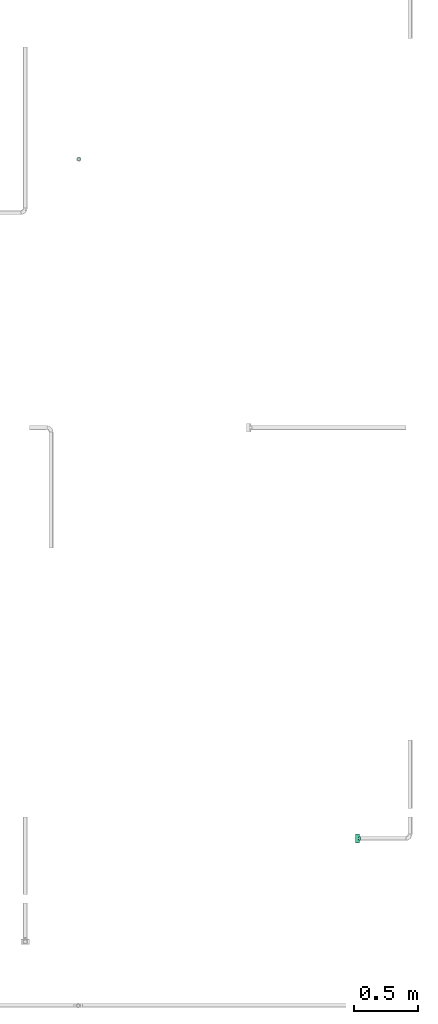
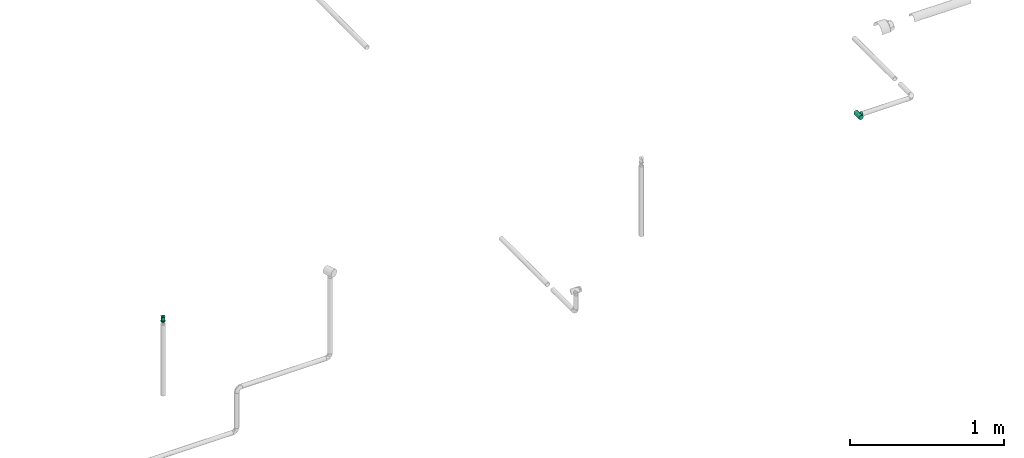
# One storey, part 36 of 63: 1 flow fitting, 1 flow terminal.
"""IFC2X3 building model written with IfcOpenShell, lengths in millimetres."""

from ifc_helpers import new_model, entity, si_unit, converted_unit, derived_unit, direction, frame, origin_with_axes, place, context, subcontext, project, spatial, open_shell, surface_model, source, transform, mapped, type_object, element, save


model = new_model("IFC2X3")

# Units and contexts
model_context = context("Model", 3, precision=0.01, world=frame((0.0, 4.29681676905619e-09, 0.0)), true_north=direction((4.01073788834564e-13, 1.0)))
plan_context = context("Plan", 3, precision=0.01, world=frame((0.0, 4.29681676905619e-09, 0.0)), true_north=direction((4.01073788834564e-13, 1.0)))
body_context = subcontext(model_context, "Body", "Model", "MODEL_VIEW")
ifc_project = project(units=[converted_unit("PLANEANGLEUNIT", "DEGREE", entity("IfcPositiveLengthMeasure", 0.0174532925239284), si_unit("PLANEANGLEUNIT", "RADIAN"), dimensions=[0, 0, 0, 0, 0, 0, 0]), si_unit("AREAUNIT", "SQUARE_METRE"), si_unit("LENGTHUNIT", "METRE", prefix="MILLI"), si_unit("MASSUNIT", "GRAM", prefix="KILO"), si_unit("POWERUNIT", "WATT"), si_unit("PRESSUREUNIT", "PASCAL", prefix="KILO"), si_unit("FORCEUNIT", "NEWTON", prefix="KILO"), si_unit("ELECTRICVOLTAGEUNIT", "VOLT"), si_unit("ELECTRICCURRENTUNIT", "AMPERE"), si_unit("THERMODYNAMICTEMPERATUREUNIT", "DEGREE_CELSIUS"), si_unit("TIMEUNIT", "SECOND"), si_unit("VOLUMEUNIT", "CUBIC_METRE"), derived_unit("LINEARVELOCITYUNIT", [(si_unit("LENGTHUNIT", "METRE"), 1), (si_unit("TIMEUNIT", "SECOND"), -1)]), derived_unit("VOLUMETRICFLOWRATEUNIT", [(si_unit("VOLUMEUNIT", "CUBIC_METRE"), 1), (si_unit("TIMEUNIT", "SECOND"), -1)]), derived_unit("THERMALTRANSMITTANCEUNIT", [(si_unit("POWERUNIT", "WATT"), 1), (si_unit("THERMODYNAMICTEMPERATUREUNIT", "KELVIN"), -1), (si_unit("AREAUNIT", "SQUARE_METRE"), -1)]), derived_unit("SOUNDPRESSUREUNIT", [(si_unit("PRESSUREUNIT", "PASCAL"), 1)])], contexts=[model_context, plan_context])

# Site, building, storey
site_placement = place(None, frame((0.0, -4.29681676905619e-09, 0.0), z_axis=(0.0, 0.0, 1.0), x_axis=(1.0, 0.0, 0.0)))
site = spatial("IfcSite", under=ifc_project, at=site_placement, CompositionType="ELEMENT")
building_placement = place(site_placement, frame((0.0, 4.29681676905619e-09, 0.0), z_axis=(0.0, 0.0, 1.0), x_axis=(1.0, 0.0, 0.0)))
building = spatial("IfcBuilding", under=site, at=building_placement, Name="mc-building", CompositionType="ELEMENT")
storey_placement = place(building_placement, frame((0.0, 0.0, 207370.0), z_axis=(0.0, 0.0, 1.0), x_axis=(1.0, 0.0, 0.0)))
storey = spatial("IfcBuildingStorey", under=building, at=storey_placement, Name="Nivå E", CompositionType="ELEMENT", Elevation=207370.0)

# Flow fitting
pipe_fitting_type = type_object("IfcPipeFittingType", Name="magi_pipe_fe_tee_centric_90_NOR", PredefinedType="JUNCTION")
shared_shape_1 = source(origin_with_axes(), body_context, "Body", "SurfaceModel", [
    surface_model("IfcShellBasedSurfaceModel", [(-33.8, 4.37404, -16.32415), (-33.8, 0.0, -16.9), (-33.8, 16.32415, -4.37404), (-33.8, 8.45, -14.63583), (-33.8, 11.9501, -11.9501), (-33.8, 14.63583, -8.45), (-33.8, -16.9, 0.0), (-33.8, -11.9501, -11.9501), (-33.8, -14.63583, -8.45), (-33.8, -8.45, -14.63583), (-33.8, -4.37404, -16.32415), (-33.8, -16.32415, -4.37404), (-33.8, 14.63583, 8.45), (-33.8, 16.32415, 4.37404), (-33.8, -8.45, 14.63583), (-33.8, 8.45, 14.63583), (-33.8, 11.9501, 11.9501), (-33.8, 4.37404, 16.32415), (-33.8, 0.0, 16.9), (-33.8, -11.9501, 11.9501), (-33.8, -14.63583, 8.45), (-33.8, -16.32415, 4.37404), (-33.8, -4.37404, 16.32415), (-33.8, 16.9, 0.0), (33.8, 4.37404, -16.32415), (33.8, -16.9, 0.0), (33.8, 0.0, -16.9), (33.8, 14.63583, -8.45), (33.8, 8.45, -14.63583), (33.8, 16.32415, -4.37404), (33.8, 11.9501, -11.9501), (33.8, -16.32415, 4.37404), (33.8, -8.45, -14.63583), (33.8, -4.37404, -16.32415), (33.8, -11.9501, -11.9501), (33.8, -14.63583, -8.45), (33.8, -16.32415, -4.37404), (33.8, 16.32415, 4.37404), (33.8, 8.45, 14.63583), (33.8, 14.63583, 8.45), (33.8, 11.9501, 11.9501), (33.8, -8.45, 14.63583), (33.8, 4.37404, 16.32415), (33.8, -14.63583, 8.45), (33.8, -11.9501, 11.9501), (33.8, 0.0, 16.9), (33.8, -4.37404, 16.32415), (33.8, 16.9, 0.0), (16.28698, -16.28698, 4.51047), (16.9, -16.9, 0.0), (14.62704, -14.62704, 8.4652), (9.47213, -9.47213, 13.99602), (12.26343, -12.26343, 11.62834), (-16.9, -16.9, 0.0), (-16.28698, -16.28698, 4.51047), (-14.62704, -14.62704, 8.4652), (-12.26343, -12.26343, 11.62834), (-9.47213, -9.47213, 13.99602), (-6.42894, -6.42894, 15.62942), (6.42894, -6.42894, 15.62942), (3.24522, -3.24522, 16.58549), (0.0, 0.0, 16.9), (-3.24522, -3.24522, 16.58549), (3.24522, -3.24522, -16.58549), (0.0, 0.0, -16.9), (-3.24522, -3.24522, -16.58549), (-6.42894, -6.42894, -15.62942), (6.42894, -6.42894, -15.62942), (9.47213, -9.47213, -13.99602), (12.26343, -12.26343, -11.62834), (14.62704, -14.62704, -8.4652), (16.28698, -16.28698, -4.51047), (-9.47213, -9.47213, -13.99602), (-12.26343, -12.26343, -11.62834), (-16.28698, -16.28698, -4.51047), (-14.62704, -14.62704, -8.4652), (4.37404, -25.35, -16.32415), (-16.9, -25.35, 0.0), (0.0, -25.35, -16.9), (14.63583, -25.35, -8.45), (8.45, -25.35, -14.63583), (16.32415, -25.35, -4.37404), (11.9501, -25.35, -11.9501), (-11.9501, -25.35, -11.9501), (-8.45, -25.35, -14.63583), (-4.37404, -25.35, -16.32415), (-14.63583, -25.35, -8.45), (-16.32415, -25.35, -4.37404), (16.9, -25.35, 0.0), (8.45, -25.35, 14.63583), (16.32415, -25.35, 4.37404), (14.63583, -25.35, 8.45), (-8.45, -25.35, 14.63583), (11.9501, -25.35, 11.9501), (4.37404, -25.35, 16.32415), (-16.32415, -25.35, 4.37404), (-11.9501, -25.35, 11.9501), (-14.63583, -25.35, 8.45), (0.0, -25.35, 16.9), (-4.37404, -25.35, 16.32415)], [open_shell([[[0, 1, 2]], [[3, 0, 4]], [[0, 2, 5]], [[4, 0, 5]], [[6, 2, 1]], [[7, 8, 9]], [[1, 10, 9]], [[11, 6, 8]], [[1, 9, 8]], [[1, 8, 6]], [[6, 12, 2]], [[12, 13, 2]], [[14, 12, 6]], [[12, 14, 15]], [[16, 12, 15]], [[17, 15, 18]], [[19, 14, 20]], [[21, 20, 14]], [[22, 18, 14]], [[14, 6, 21]], [[14, 18, 15]], [[23, 2, 13]], [[24, 25, 26]], [[27, 24, 28]], [[27, 29, 24]], [[27, 28, 30]], [[31, 25, 24]], [[26, 32, 33]], [[26, 34, 32]], [[35, 25, 36]], [[35, 34, 26]], [[25, 35, 26]], [[24, 29, 31]], [[29, 37, 38]], [[38, 37, 39]], [[38, 31, 29]], [[38, 39, 40]], [[41, 38, 42]], [[43, 41, 44]], [[41, 43, 31]], [[41, 45, 46]], [[41, 31, 38]], [[42, 45, 41]], [[29, 47, 37]], [[31, 43, 48]], [[25, 31, 49]], [[49, 31, 48]], [[43, 50, 48]], [[44, 41, 51]], [[50, 43, 52]], [[51, 52, 44]], [[52, 43, 44]], [[53, 54, 21]], [[53, 21, 6]], [[21, 54, 20]], [[54, 55, 20]], [[56, 57, 19]], [[19, 20, 56]], [[19, 57, 14]], [[56, 20, 55]], [[14, 57, 58]], [[51, 41, 59]], [[60, 45, 61]], [[59, 46, 60]], [[46, 59, 41]], [[60, 46, 45]], [[61, 45, 42]], [[39, 37, 13]], [[16, 38, 40]], [[12, 40, 39]], [[42, 38, 15]], [[23, 37, 47]], [[62, 61, 18]], [[62, 22, 58]], [[22, 62, 18]], [[58, 22, 14]], [[61, 17, 18]], [[42, 17, 61]], [[15, 17, 42]], [[15, 38, 16]], [[12, 16, 40]], [[13, 12, 39]], [[37, 23, 13]], [[5, 27, 30]], [[23, 47, 29]], [[30, 28, 3]], [[27, 2, 29]], [[26, 33, 63]], [[26, 64, 24]], [[64, 26, 63]], [[28, 24, 0]], [[64, 0, 24]], [[4, 30, 3]], [[2, 27, 5]], [[5, 30, 4]], [[2, 23, 29]], [[65, 66, 10]], [[1, 0, 64]], [[1, 65, 10]], [[66, 9, 10]], [[0, 3, 28]], [[1, 64, 65]], [[63, 33, 67]], [[32, 34, 68]], [[69, 68, 34]], [[35, 70, 69]], [[69, 34, 35]], [[32, 68, 67]], [[36, 25, 49]], [[36, 71, 35]], [[71, 36, 49]], [[35, 71, 70]], [[72, 9, 66]], [[72, 7, 9]], [[7, 72, 73]], [[7, 73, 8]], [[74, 53, 11]], [[75, 74, 8]], [[74, 11, 8]], [[11, 53, 6]], [[75, 8, 73]], [[32, 67, 33]], [[76, 77, 78]], [[79, 76, 80]], [[79, 81, 76]], [[79, 80, 82]], [[77, 76, 81]], [[78, 83, 84]], [[84, 85, 78]], [[86, 77, 87]], [[83, 78, 86]], [[77, 86, 78]], [[81, 88, 77]], [[89, 88, 90]], [[89, 90, 91]], [[92, 77, 89]], [[89, 91, 93]], [[92, 89, 94]], [[95, 96, 97]], [[96, 95, 92]], [[92, 98, 99]], [[95, 77, 92]], [[94, 98, 92]], [[89, 77, 88]], [[77, 95, 53]], [[54, 53, 95]], [[97, 96, 56]], [[96, 92, 57]], [[95, 97, 54]], [[58, 92, 99]], [[55, 54, 97]], [[56, 55, 97]], [[58, 57, 92]], [[98, 61, 62]], [[58, 99, 62]], [[56, 96, 57]], [[62, 99, 98]], [[94, 60, 98]], [[89, 59, 94]], [[91, 90, 48]], [[52, 93, 91]], [[93, 51, 89]], [[49, 90, 88]], [[59, 60, 94]], [[51, 59, 89]], [[49, 48, 90]], [[50, 52, 91]], [[48, 50, 91]], [[51, 93, 52]], [[98, 60, 61]], [[88, 81, 49]], [[71, 49, 81]], [[79, 82, 69]], [[82, 80, 68]], [[81, 79, 71]], [[67, 80, 76]], [[70, 71, 79]], [[69, 70, 79]], [[67, 68, 80]], [[78, 64, 63]], [[67, 76, 63]], [[69, 82, 68]], [[63, 76, 78]], [[85, 65, 78]], [[84, 66, 85]], [[86, 87, 74]], [[86, 73, 83]], [[72, 84, 83]], [[53, 87, 77]], [[66, 65, 85]], [[72, 66, 84]], [[53, 74, 87]], [[75, 73, 86]], [[74, 75, 86]], [[72, 83, 73]], [[78, 65, 64]]])]),
])
flow_fitting_placement = place(storey_placement, frame((724589.39723, 435998.03458, 7130.0), z_axis=(0.0, 0.0, -1.0), x_axis=(0.0, -1.0, 0.0)))
element("IfcFlowFitting", 1, at=flow_fitting_placement, inside=storey, type_object=pipe_fitting_type, Name="magi_pipe_fe_tee_centric_90_NOR", context=body_context, shape_type="MappedRepresentation", body=[
    mapped(shared_shape_1, transform((0.0, 0.0, 0.0), scale=1.0)),
])

# Flow terminal
fire_suppression_terminal_type = type_object("IfcFireSuppressionTerminalType", Name="68DGR-STD-STÅENDE", PredefinedType="NOTDEFINED")
shared_shape_2 = source(origin_with_axes(), body_context, "Body", "SurfaceModel", [
    surface_model("IfcShellBasedSurfaceModel", [(3.36465, -12.55704, 51.0), (6.5, -11.25833, 51.0), (9.19239, -9.19239, 51.0), (12.55704, -3.36465, 51.0), (-11.25833, -6.5, 51.0), (11.25833, -6.5, 51.0), (-13.0, 0.0, 51.0), (0.0, -13.0, 51.0), (-6.5, -11.25833, 51.0), (-3.36465, -12.55704, 51.0), (-9.19239, -9.19239, 51.0), (-12.55704, -3.36465, 51.0), (13.0, 0.0, 51.0), (12.55704, 3.36465, 51.0), (11.25833, 6.5, 51.0), (9.19239, 9.19239, 51.0), (6.5, 11.25833, 51.0), (3.36465, 12.55704, 51.0), (0.0, 13.0, 51.0), (-3.36465, 12.55704, 51.0), (-12.55704, 3.36465, 51.0), (-9.19239, 9.19239, 51.0), (-11.25833, 6.5, 51.0), (-6.5, 11.25833, 51.0), (0.0, 13.0, 21.14766), (3.36465, 12.55704, 21.14766), (6.5, 11.25833, 21.14766), (-3.36465, 12.55704, 21.14766), (9.19239, 9.19239, 21.14766), (11.25833, 6.5, 21.14766), (12.55704, 3.36465, 21.14766), (-12.55704, 3.36465, 21.14766), (-11.25833, -6.5, 21.14766), (-9.19239, 9.19239, 21.14766), (-6.5, 11.25833, 21.14766), (-11.25833, 6.5, 21.14766), (-13.0, 0.0, 21.14766), (12.55704, -3.36465, 21.14766), (9.19239, -9.19239, 21.14766), (11.25833, -6.5, 21.14766), (6.5, -11.25833, 21.14766), (3.36465, -12.55704, 21.14766), (-6.5, -11.25833, 21.14766), (-9.19239, -9.19239, 21.14766), (-12.55704, -3.36465, 21.14766), (0.0, -13.0, 21.14766), (-3.36465, -12.55704, 21.14766), (13.0, 0.0, 21.14766), (7.24444, -1.94114, 0.1), (1.94114, -7.24444, 0.1), (3.75, -6.49519, 0.1), (5.3033, -5.3033, 0.1), (-5.3033, -5.3033, 0.1), (6.49519, -3.75, 0.1), (5.3033, 5.3033, 0.1), (0.0, -7.5, 0.1), (-3.75, -6.49519, 0.1), (-1.94114, -7.24444, 0.1), (-7.24444, -1.94114, 0.1), (-6.49519, -3.75, 0.1), (-7.24444, 1.94114, 0.1), (7.5, 0.0, 0.1), (6.49519, 3.75, 0.1), (-6.49519, 3.75, 0.1), (1.94114, 7.24444, 0.1), (0.0, 7.5, 0.1), (3.75, 6.49519, 0.1), (-7.5, 0.0, 0.1), (-5.3033, 5.3033, 0.1), (-1.94114, 7.24444, 0.1), (-3.75, 6.49519, 0.1), (7.24444, 1.94114, 0.1), (1.94114, 7.24444, -0.1), (-6.49519, 3.75, -0.1), (0.0, 7.5, -0.1), (5.3033, 5.3033, -0.1), (3.75, 6.49519, -0.1), (6.49519, 3.75, -0.1), (7.24444, 1.94114, -0.1), (-1.94114, 7.24444, -0.1), (-5.3033, 5.3033, -0.1), (-3.75, 6.49519, -0.1), (-7.24444, 1.94114, -0.1), (-7.24444, -1.94114, -0.1), (-7.5, 0.0, -0.1), (7.5, 0.0, -0.1), (7.24444, -1.94114, -0.1), (-5.3033, -5.3033, -0.1), (1.94114, -7.24444, -0.1), (6.49519, -3.75, -0.1), (5.3033, -5.3033, -0.1), (3.75, -6.49519, -0.1), (-6.49519, -3.75, -0.1), (-3.75, -6.49519, -0.1), (0.0, -7.5, -0.1), (-1.94114, -7.24444, -0.1), (0.0, -2.5, 51.0), (-2.5, 0.0, 51.0), (0.0, 2.5, 51.0), (2.5, 0.0, 51.0), (0.0, -16.0, 53.0), (11.31371, -11.31371, 53.0), (-11.31371, -11.31371, 53.0), (-16.0, 0.0, 53.0), (16.0, 0.0, 53.0), (11.31371, 11.31371, 53.0), (0.0, 16.0, 53.0), (-11.31371, 11.31371, 53.0), (1.25, -2.16506, 57.0), (0.0, -2.5, 57.0), (0.64705, -2.41481, 57.0), (2.41481, -0.64705, 57.0), (1.76777, -1.76777, 57.0), (-2.41481, -0.64705, 57.0), (-2.5, 0.0, 57.0), (2.16506, -1.25, 57.0), (-1.25, -2.16506, 57.0), (-0.64705, -2.41481, 57.0), (-1.76777, -1.76777, 57.0), (-2.16506, -1.25, 57.0), (2.5, 0.0, 57.0), (2.41481, 0.64705, 57.0), (2.16506, 1.25, 57.0), (1.76777, 1.76777, 57.0), (0.64705, 2.41481, 57.0), (1.25, 2.16506, 57.0), (-1.76777, 1.76777, 57.0), (0.0, 2.5, 57.0), (-2.16506, 1.25, 57.0), (-2.41481, 0.64705, 57.0), (-0.64705, 2.41481, 57.0), (-1.25, 2.16506, 57.0), (1.25, 2.16506, 51.0), (1.76777, 1.76777, 51.0), (1.15, 1.99186, 51.0), (0.59528, 2.22163, 51.0), (0.64705, 2.41481, 51.0), (0.0, 2.3, 51.0), (1.62635, 1.62635, 51.0), (2.41481, 0.64705, 51.0), (2.3, 0.0, 51.0), (2.22163, 0.59528, 51.0), (2.16506, 1.25, 51.0), (1.99186, 1.15, 51.0), (-0.59528, 2.22163, 51.0), (-0.64705, 2.41481, 51.0), (-1.15, 1.99186, 51.0), (-1.76777, 1.76777, 51.0), (-1.25, 2.16506, 51.0), (-1.62635, 1.62635, 51.0), (-1.99186, 1.15, 51.0), (-2.16506, 1.25, 51.0), (-2.22163, 0.59528, 51.0), (-2.41481, 0.64705, 51.0), (-2.3, 0.0, 51.0), (2.41481, -0.64705, 51.0), (2.22163, -0.59528, 51.0), (1.99186, -1.15, 51.0), (2.16506, -1.25, 51.0), (1.62635, -1.62635, 51.0), (1.76777, -1.76777, 51.0), (1.25, -2.16506, 51.0), (1.15, -1.99186, 51.0), (0.59528, -2.22163, 51.0), (0.64705, -2.41481, 51.0), (0.0, -2.3, 51.0), (-2.16506, -1.25, 51.0), (-1.99186, -1.15, 51.0), (-1.76777, -1.76777, 51.0), (-1.62635, -1.62635, 51.0), (-2.41481, -0.64705, 51.0), (-2.22163, -0.59528, 51.0), (-0.59528, -2.22163, 51.0), (-0.64705, -2.41481, 51.0), (-1.15, -1.99186, 51.0), (-1.25, -2.16506, 51.0), (1.62635, -1.62635, 56.8), (1.15, -1.99186, 56.8), (0.59528, -2.22163, 56.8), (0.0, -2.3, 56.8), (2.22163, 0.59528, 56.8), (1.99186, -1.15, 56.8), (2.22163, -0.59528, 56.8), (-0.59528, -2.22163, 56.8), (-1.15, -1.99186, 56.8), (-1.62635, -1.62635, 56.8), (-1.99186, -1.15, 56.8), (-2.22163, -0.59528, 56.8), (-1.99186, 1.15, 56.8), (2.3, 0.0, 56.8), (1.62635, 1.62635, 56.8), (1.99186, 1.15, 56.8), (1.15, 1.99186, 56.8), (0.0, 2.3, 56.8), (0.59528, 2.22163, 56.8), (-2.22163, 0.59528, 56.8), (-2.3, 0.0, 56.8), (-1.15, 1.99186, 56.8), (-0.59528, 2.22163, 56.8), (-1.62635, 1.62635, 56.8), (4.1411, -15.45481, 19.0), (8.0, -13.85641, 19.0), (11.31371, -11.31371, 19.0), (-8.0, -13.85641, 19.0), (15.45481, -4.1411, 19.0), (16.0, 0.0, 19.0), (13.85641, -8.0, 19.0), (0.0, -16.0, 19.0), (-4.1411, -15.45481, 19.0), (-13.85641, -8.0, 19.0), (-11.31371, -11.31371, 19.0), (-15.45481, -4.1411, 19.0), (15.45481, 4.1411, 19.0), (13.85641, 8.0, 19.0), (11.31371, 11.31371, 19.0), (-4.1411, 15.45481, 19.0), (8.0, 13.85641, 19.0), (4.1411, 15.45481, 19.0), (0.0, 16.0, 19.0), (-13.85641, 8.0, 19.0), (-15.45481, 4.1411, 19.0), (-16.0, 0.0, 19.0), (-11.31371, 11.31371, 19.0), (-8.0, 13.85641, 19.0), (0.0, 16.0, 13.0), (4.1411, 15.45481, 13.0), (8.0, 13.85641, 13.0), (-4.1411, 15.45481, 13.0), (11.31371, 11.31371, 13.0), (13.85641, 8.0, 13.0), (15.45481, 4.1411, 13.0), (-15.45481, -4.1411, 13.0), (-11.31371, 11.31371, 13.0), (-8.0, 13.85641, 13.0), (-13.85641, 8.0, 13.0), (-15.45481, 4.1411, 13.0), (-16.0, 0.0, 13.0), (4.1411, -15.45481, 13.0), (16.0, 0.0, 13.0), (15.45481, -4.1411, 13.0), (13.85641, -8.0, 13.0), (11.31371, -11.31371, 13.0), (8.0, -13.85641, 13.0), (-8.0, -13.85641, 13.0), (-13.85641, -8.0, 13.0), (-11.31371, -11.31371, 13.0), (0.0, -16.0, 13.0), (-4.1411, -15.45481, 13.0), (7.24444, -1.94114, 13.0), (1.94114, -7.24444, 13.0), (3.75, -6.49519, 13.0), (5.3033, -5.3033, 13.0), (-5.3033, -5.3033, 13.0), (6.49519, -3.75, 13.0), (5.3033, 5.3033, 13.0), (0.0, -7.5, 13.0), (-3.75, -6.49519, 13.0), (-1.94114, -7.24444, 13.0), (-7.24444, -1.94114, 13.0), (-6.49519, -3.75, 13.0), (-7.24444, 1.94114, 13.0), (7.5, 0.0, 13.0), (6.49519, 3.75, 13.0), (-6.49519, 3.75, 13.0), (1.94114, 7.24444, 13.0), (0.0, 7.5, 13.0), (3.75, 6.49519, 13.0), (-7.5, 0.0, 13.0), (-5.3033, 5.3033, 13.0), (-1.94114, 7.24444, 13.0), (-3.75, 6.49519, 13.0), (7.24444, 1.94114, 13.0), (3.75, 6.49519, 0.0), (5.3033, 5.3033, 0.0), (3.65, 6.32199, 0.0), (1.88938, 7.05126, 0.0), (0.0, 7.3, 0.0), (1.94114, 7.24444, 0.0), (0.0, 7.5, 0.0), (5.16188, 5.16188, 0.0), (7.24444, 1.94114, 0.0), (7.3, 0.0, 0.0), (7.05126, 1.88938, 0.0), (7.5, 0.0, 0.0), (6.49519, 3.75, 0.0), (6.32199, 3.65, 0.0), (-1.88938, 7.05126, 0.0), (-1.94114, 7.24444, 0.0), (-3.65, 6.32199, 0.0), (-5.3033, 5.3033, 0.0), (-3.75, 6.49519, 0.0), (-5.16188, 5.16188, 0.0), (-6.32199, 3.65, 0.0), (-6.49519, 3.75, 0.0), (-7.05126, 1.88938, 0.0), (-7.24444, 1.94114, 0.0), (-7.3, 0.0, 0.0), (-7.5, 0.0, 0.0), (7.24444, -1.94114, 0.0), (7.05126, -1.88938, 0.0), (6.32199, -3.65, 0.0), (6.49519, -3.75, 0.0), (5.16188, -5.16188, 0.0), (5.3033, -5.3033, 0.0), (3.75, -6.49519, 0.0), (3.65, -6.32199, 0.0), (1.88938, -7.05126, 0.0), (1.94114, -7.24444, 0.0), (0.0, -7.3, 0.0), (0.0, -7.5, 0.0), (-6.49519, -3.75, 0.0), (-6.32199, -3.65, 0.0), (-5.3033, -5.3033, 0.0), (-5.16188, -5.16188, 0.0), (-7.24444, -1.94114, 0.0), (-7.05126, -1.88938, 0.0), (-1.88938, -7.05126, 0.0), (-1.94114, -7.24444, 0.0), (-3.65, -6.32199, 0.0), (-3.75, -6.49519, 0.0), (1.88938, -7.05126, 12.8), (0.0, -7.3, 12.8), (3.65, -6.32199, 12.8), (5.16188, -5.16188, 12.8), (6.32199, -3.65, 12.8), (7.05126, 1.88938, 12.8), (7.05126, -1.88938, 12.8), (-5.16188, -5.16188, 12.8), (-1.88938, -7.05126, 12.8), (-3.65, -6.32199, 12.8), (-6.32199, -3.65, 12.8), (-7.05126, -1.88938, 12.8), (0.0, 7.3, 12.8), (7.3, 0.0, 12.8), (6.32199, 3.65, 12.8), (5.16188, 5.16188, 12.8), (3.65, 6.32199, 12.8), (1.88938, 7.05126, 12.8), (-6.32199, 3.65, 12.8), (-7.05126, 1.88938, 12.8), (-7.3, 0.0, 12.8), (-3.65, 6.32199, 12.8), (-1.88938, 7.05126, 12.8), (-5.16188, 5.16188, 12.8)], [open_shell([[[0, 1, 2]], [[0, 2, 3]], [[0, 3, 4]], [[3, 2, 5]], [[6, 4, 3]], [[7, 8, 9]], [[7, 0, 8]], [[8, 4, 10]], [[0, 4, 8]], [[4, 6, 11]], [[6, 3, 12]], [[13, 14, 15]], [[6, 13, 15]], [[16, 17, 18]], [[15, 16, 19]], [[18, 19, 16]], [[20, 21, 22]], [[20, 6, 15]], [[21, 19, 23]], [[19, 21, 20]], [[15, 19, 20]], [[13, 6, 12]], [[24, 25, 26]], [[27, 24, 26]], [[28, 29, 30]], [[26, 28, 31]], [[28, 32, 31]], [[27, 33, 34]], [[33, 27, 31]], [[33, 31, 35]], [[27, 26, 31]], [[31, 32, 36]], [[32, 28, 30]], [[32, 30, 37]], [[38, 37, 39]], [[38, 40, 41]], [[38, 41, 37]], [[32, 37, 41]], [[32, 42, 43]], [[44, 36, 32]], [[42, 45, 46]], [[42, 32, 41]], [[45, 42, 41]], [[30, 47, 37]], [[4, 32, 43]], [[8, 42, 46]], [[43, 42, 10]], [[9, 46, 45]], [[36, 11, 6]], [[11, 36, 44]], [[11, 44, 4]], [[44, 32, 4]], [[43, 10, 4]], [[8, 10, 42]], [[46, 9, 8]], [[45, 7, 9]], [[0, 41, 40]], [[38, 1, 40]], [[5, 39, 37]], [[38, 39, 2]], [[3, 37, 47]], [[41, 0, 7]], [[40, 1, 0]], [[38, 2, 1]], [[39, 5, 2]], [[3, 5, 37]], [[47, 12, 3]], [[41, 7, 45]], [[30, 13, 47]], [[29, 14, 30]], [[25, 24, 17]], [[15, 29, 28]], [[30, 14, 13]], [[13, 12, 47]], [[16, 26, 17]], [[16, 15, 28]], [[26, 25, 17]], [[15, 14, 29]], [[28, 26, 16]], [[24, 18, 17]], [[19, 27, 34]], [[33, 23, 34]], [[22, 35, 31]], [[33, 35, 21]], [[20, 31, 36]], [[27, 19, 18]], [[34, 23, 19]], [[33, 21, 23]], [[35, 22, 21]], [[20, 22, 31]], [[36, 6, 20]], [[27, 18, 24]], [[48, 49, 50]], [[48, 50, 51]], [[49, 48, 52]], [[48, 51, 53]], [[54, 52, 48]], [[55, 56, 57]], [[56, 55, 52]], [[52, 58, 59]], [[52, 55, 49]], [[52, 60, 58]], [[54, 48, 61]], [[62, 54, 61]], [[54, 63, 52]], [[64, 65, 54]], [[64, 54, 66]], [[63, 54, 65]], [[63, 60, 52]], [[67, 58, 60]], [[68, 69, 70]], [[69, 68, 63]], [[69, 63, 65]], [[71, 62, 61]], [[72, 73, 74]], [[75, 72, 76]], [[75, 77, 78]], [[72, 75, 73]], [[78, 73, 75]], [[79, 80, 81]], [[80, 79, 73]], [[74, 73, 79]], [[78, 82, 73]], [[82, 83, 84]], [[82, 78, 85]], [[86, 87, 85]], [[88, 86, 89]], [[90, 91, 88]], [[90, 88, 89]], [[87, 86, 88]], [[83, 87, 92]], [[83, 85, 87]], [[93, 94, 95]], [[94, 93, 87]], [[88, 94, 87]], [[85, 83, 82]], [[83, 58, 84]], [[92, 59, 83]], [[56, 87, 93]], [[92, 87, 52]], [[57, 93, 95]], [[83, 59, 58]], [[58, 67, 84]], [[57, 56, 93]], [[52, 87, 56]], [[52, 59, 92]], [[55, 57, 95]], [[95, 94, 55]], [[88, 49, 94]], [[91, 50, 88]], [[53, 90, 89]], [[91, 90, 51]], [[48, 89, 86]], [[91, 51, 50]], [[50, 49, 88]], [[61, 48, 86]], [[53, 89, 48]], [[53, 51, 90]], [[85, 61, 86]], [[94, 49, 55]], [[78, 71, 85]], [[77, 62, 78]], [[66, 75, 76]], [[77, 75, 54]], [[64, 76, 72]], [[78, 62, 71]], [[71, 61, 85]], [[64, 66, 76]], [[54, 75, 66]], [[54, 62, 77]], [[65, 64, 72]], [[72, 74, 65]], [[79, 69, 74]], [[81, 70, 79]], [[63, 80, 73]], [[81, 80, 68]], [[60, 73, 82]], [[81, 68, 70]], [[70, 69, 79]], [[67, 60, 82]], [[63, 73, 60]], [[63, 68, 80]], [[84, 67, 82]], [[74, 69, 65]], [[96, 97, 98]], [[98, 99, 96]], [[100, 101, 102]], [[103, 102, 101]], [[101, 104, 103]], [[104, 105, 106]], [[107, 103, 106]], [[106, 103, 104]], [[99, 98, 105]], [[105, 104, 99]], [[98, 106, 105]], [[98, 107, 106]], [[107, 98, 97]], [[103, 107, 97]], [[97, 96, 102]], [[102, 103, 97]], [[96, 100, 102]], [[96, 101, 100]], [[101, 96, 99]], [[104, 101, 99]], [[108, 109, 110]], [[111, 108, 112]], [[113, 108, 114]], [[111, 112, 115]], [[108, 111, 114]], [[109, 116, 117]], [[116, 109, 118]], [[118, 113, 119]], [[118, 109, 108]], [[108, 113, 118]], [[111, 120, 114]], [[121, 122, 123]], [[114, 121, 123]], [[114, 123, 124]], [[124, 123, 125]], [[126, 124, 127]], [[124, 128, 129]], [[129, 114, 124]], [[126, 130, 131]], [[128, 124, 126]], [[130, 126, 127]], [[121, 114, 120]], [[132, 133, 134]], [[132, 134, 135]], [[136, 135, 137]], [[135, 136, 132]], [[136, 137, 98]], [[134, 133, 138]], [[139, 140, 141]], [[140, 139, 99]], [[139, 141, 142]], [[138, 142, 143]], [[142, 138, 133]], [[143, 142, 141]], [[98, 144, 145]], [[98, 137, 144]], [[145, 144, 146]], [[147, 148, 149]], [[146, 148, 145]], [[149, 148, 146]], [[150, 151, 147]], [[151, 150, 152]], [[150, 147, 149]], [[153, 152, 154]], [[152, 153, 151]], [[153, 154, 97]], [[99, 155, 156]], [[156, 155, 157]], [[157, 158, 159]], [[158, 157, 155]], [[159, 158, 160]], [[160, 161, 162]], [[162, 161, 163]], [[163, 164, 165]], [[164, 163, 161]], [[165, 164, 96]], [[162, 159, 160]], [[166, 167, 168]], [[168, 167, 169]], [[167, 166, 170]], [[97, 171, 170]], [[170, 171, 167]], [[97, 154, 171]], [[172, 96, 173]], [[172, 173, 174]], [[169, 175, 168]], [[175, 169, 174]], [[175, 174, 173]], [[165, 96, 172]], [[156, 140, 99]], [[170, 113, 97]], [[166, 119, 170]], [[116, 168, 175]], [[166, 168, 118]], [[117, 175, 173]], [[170, 119, 113]], [[113, 114, 97]], [[117, 116, 175]], [[118, 168, 116]], [[118, 119, 166]], [[109, 117, 173]], [[173, 96, 109]], [[164, 110, 96]], [[161, 108, 164]], [[115, 160, 158]], [[161, 160, 112]], [[111, 158, 155]], [[161, 112, 108]], [[108, 110, 164]], [[120, 111, 155]], [[115, 158, 111]], [[115, 112, 160]], [[99, 120, 155]], [[96, 110, 109]], [[139, 121, 99]], [[142, 122, 139]], [[125, 133, 132]], [[142, 133, 123]], [[124, 132, 136]], [[139, 122, 121]], [[121, 120, 99]], [[124, 125, 132]], [[123, 133, 125]], [[123, 122, 142]], [[127, 124, 136]], [[136, 98, 127]], [[145, 130, 98]], [[148, 131, 145]], [[128, 147, 151]], [[148, 147, 126]], [[129, 151, 153]], [[148, 126, 131]], [[131, 130, 145]], [[114, 129, 153]], [[128, 151, 129]], [[128, 126, 147]], [[97, 114, 153]], [[98, 130, 127]], [[176, 177, 178]], [[176, 178, 179]], [[180, 176, 179]], [[181, 176, 182]], [[180, 182, 176]], [[183, 184, 179]], [[185, 179, 184]], [[186, 187, 185]], [[185, 187, 188]], [[179, 185, 188]], [[189, 182, 180]], [[190, 191, 180]], [[192, 190, 180]], [[193, 194, 192]], [[180, 193, 192]], [[188, 193, 180]], [[195, 188, 196]], [[196, 188, 187]], [[197, 198, 199]], [[188, 199, 198]], [[188, 198, 193]], [[180, 179, 188]], [[154, 187, 171]], [[171, 186, 167]], [[174, 169, 184]], [[185, 169, 167]], [[172, 174, 183]], [[187, 186, 171]], [[154, 196, 187]], [[174, 184, 183]], [[184, 169, 185]], [[167, 186, 185]], [[172, 183, 179]], [[179, 165, 172]], [[165, 178, 163]], [[163, 177, 162]], [[157, 159, 181]], [[176, 159, 162]], [[156, 157, 182]], [[177, 176, 162]], [[163, 178, 177]], [[156, 182, 189]], [[182, 157, 181]], [[159, 176, 181]], [[156, 189, 140]], [[179, 178, 165]], [[140, 180, 141]], [[141, 191, 143]], [[134, 138, 192]], [[190, 138, 143]], [[135, 134, 194]], [[180, 191, 141]], [[140, 189, 180]], [[134, 192, 194]], [[192, 138, 190]], [[143, 191, 190]], [[135, 194, 193]], [[193, 137, 135]], [[137, 198, 144]], [[144, 197, 146]], [[150, 149, 188]], [[199, 149, 146]], [[152, 150, 195]], [[197, 199, 146]], [[144, 198, 197]], [[152, 195, 196]], [[195, 150, 188]], [[149, 199, 188]], [[152, 196, 154]], [[193, 198, 137]], [[200, 201, 202]], [[203, 200, 202]], [[204, 205, 202]], [[204, 202, 206]], [[203, 202, 205]], [[207, 203, 208]], [[207, 200, 203]], [[203, 209, 210]], [[209, 203, 211]], [[205, 211, 203]], [[205, 212, 211]], [[212, 213, 214]], [[215, 212, 214]], [[216, 217, 218]], [[214, 216, 215]], [[218, 215, 216]], [[211, 219, 220]], [[221, 211, 220]], [[222, 215, 223]], [[215, 222, 219]], [[219, 211, 215]], [[211, 212, 215]], [[224, 225, 226]], [[227, 224, 226]], [[228, 229, 230]], [[227, 226, 228]], [[227, 228, 231]], [[227, 232, 233]], [[232, 227, 234]], [[234, 231, 235]], [[231, 234, 227]], [[235, 231, 236]], [[228, 230, 231]], [[237, 238, 239]], [[237, 239, 240]], [[241, 242, 237]], [[241, 237, 240]], [[238, 237, 243]], [[244, 243, 245]], [[243, 244, 231]], [[243, 246, 247]], [[243, 231, 238]], [[237, 246, 243]], [[238, 231, 230]], [[231, 211, 236]], [[244, 209, 231]], [[203, 245, 243]], [[244, 245, 210]], [[208, 243, 247]], [[231, 209, 211]], [[211, 221, 236]], [[208, 203, 243]], [[210, 245, 203]], [[210, 209, 244]], [[207, 208, 247]], [[247, 246, 207]], [[237, 200, 246]], [[242, 201, 237]], [[206, 241, 240]], [[242, 241, 202]], [[204, 240, 239]], [[242, 202, 201]], [[201, 200, 237]], [[205, 204, 239]], [[206, 240, 204]], [[206, 202, 241]], [[238, 205, 239]], [[246, 200, 207]], [[230, 212, 238]], [[229, 213, 230]], [[216, 228, 226]], [[229, 228, 214]], [[217, 226, 225]], [[230, 213, 212]], [[212, 205, 238]], [[217, 216, 226]], [[214, 228, 216]], [[214, 213, 229]], [[218, 217, 225]], [[225, 224, 218]], [[227, 215, 224]], [[233, 223, 227]], [[219, 232, 234]], [[233, 232, 222]], [[220, 234, 235]], [[233, 222, 223]], [[223, 215, 227]], [[221, 220, 235]], [[219, 234, 220]], [[219, 222, 232]], [[236, 221, 235]], [[224, 215, 218]], [[248, 249, 250]], [[248, 250, 251]], [[249, 248, 252]], [[248, 251, 253]], [[254, 252, 248]], [[255, 256, 257]], [[256, 255, 252]], [[252, 258, 259]], [[252, 255, 249]], [[252, 260, 258]], [[254, 248, 261]], [[262, 254, 261]], [[254, 263, 252]], [[264, 265, 254]], [[264, 254, 266]], [[263, 254, 265]], [[263, 260, 252]], [[267, 258, 260]], [[268, 269, 270]], [[269, 268, 263]], [[269, 263, 265]], [[271, 262, 261]], [[272, 273, 274]], [[272, 274, 275]], [[276, 277, 275]], [[277, 276, 278]], [[275, 277, 272]], [[274, 273, 279]], [[280, 281, 282]], [[281, 280, 283]], [[280, 282, 284]], [[279, 284, 285]], [[284, 279, 273]], [[285, 284, 282]], [[278, 286, 287]], [[287, 286, 288]], [[289, 290, 291]], [[288, 290, 287]], [[288, 291, 290]], [[278, 276, 286]], [[292, 293, 289]], [[293, 292, 294]], [[292, 289, 291]], [[295, 294, 296]], [[294, 295, 293]], [[295, 296, 297]], [[283, 298, 299]], [[299, 298, 300]], [[300, 301, 302]], [[301, 300, 298]], [[302, 301, 303]], [[303, 304, 305]], [[305, 304, 306]], [[306, 307, 308]], [[307, 306, 304]], [[308, 307, 309]], [[305, 302, 303]], [[310, 311, 312]], [[312, 311, 313]], [[311, 310, 314]], [[297, 315, 314]], [[314, 315, 311]], [[297, 296, 315]], [[316, 309, 317]], [[316, 317, 318]], [[313, 319, 312]], [[313, 318, 319]], [[319, 318, 317]], [[308, 309, 316]], [[299, 281, 283]], [[314, 258, 297]], [[310, 259, 314]], [[256, 312, 319]], [[310, 312, 252]], [[257, 319, 317]], [[314, 259, 258]], [[258, 267, 297]], [[257, 256, 319]], [[252, 312, 256]], [[252, 259, 310]], [[255, 257, 317]], [[317, 309, 255]], [[307, 249, 309]], [[304, 250, 307]], [[253, 303, 301]], [[304, 303, 251]], [[248, 301, 298]], [[304, 251, 250]], [[250, 249, 307]], [[261, 248, 298]], [[253, 301, 248]], [[253, 251, 303]], [[283, 261, 298]], [[309, 249, 255]], [[280, 271, 283]], [[284, 262, 280]], [[266, 273, 272]], [[284, 273, 254]], [[264, 272, 277]], [[280, 262, 271]], [[271, 261, 283]], [[264, 266, 272]], [[254, 273, 266]], [[254, 262, 284]], [[265, 264, 277]], [[277, 278, 265]], [[287, 269, 278]], [[290, 270, 287]], [[263, 289, 293]], [[290, 289, 268]], [[260, 293, 295]], [[290, 268, 270]], [[270, 269, 287]], [[267, 260, 295]], [[263, 293, 260]], [[263, 268, 289]], [[297, 267, 295]], [[278, 269, 265]], [[320, 321, 322]], [[323, 322, 324]], [[325, 326, 322]], [[324, 322, 326]], [[322, 327, 325]], [[328, 329, 321]], [[327, 321, 329]], [[330, 331, 327]], [[322, 321, 327]], [[331, 332, 327]], [[326, 325, 333]], [[334, 325, 332]], [[335, 334, 336]], [[332, 337, 336]], [[334, 332, 336]], [[331, 338, 332]], [[339, 338, 340]], [[340, 338, 331]], [[341, 342, 343]], [[332, 338, 343]], [[332, 343, 342]], [[332, 325, 327]], [[296, 331, 315]], [[315, 330, 311]], [[318, 313, 329]], [[327, 313, 311]], [[316, 318, 328]], [[331, 330, 315]], [[296, 340, 331]], [[318, 329, 328]], [[329, 313, 327]], [[311, 330, 327]], [[316, 328, 321]], [[321, 308, 316]], [[308, 320, 306]], [[306, 322, 305]], [[300, 302, 324]], [[323, 302, 305]], [[299, 300, 326]], [[322, 323, 305]], [[306, 320, 322]], [[299, 326, 333]], [[326, 300, 324]], [[302, 323, 324]], [[299, 333, 281]], [[321, 320, 308]], [[281, 325, 282]], [[282, 334, 285]], [[274, 279, 336]], [[335, 279, 285]], [[275, 274, 337]], [[325, 334, 282]], [[281, 333, 325]], [[274, 336, 337]], [[336, 279, 335]], [[285, 334, 335]], [[275, 337, 332]], [[332, 276, 275]], [[276, 342, 286]], [[286, 341, 288]], [[292, 291, 338]], [[343, 291, 288]], [[294, 292, 339]], [[341, 343, 288]], [[286, 342, 341]], [[294, 339, 340]], [[339, 292, 338]], [[291, 343, 338]], [[294, 340, 296]], [[332, 342, 276]]])]),
])
flow_terminal_placement = place(storey_placement, frame((722417.8031, 441293.31989, 3027.71994000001), z_axis=(0.0, 0.0, 1.0), x_axis=(1.0, 0.0, 0.0)))
element("IfcFlowTerminal", 2, at=flow_terminal_placement, inside=storey, type_object=fire_suppression_terminal_type, Name="68DGR-STD-STÅENDE", context=body_context, shape_type="MappedRepresentation", body=[
    mapped(shared_shape_2, transform((0.0, 0.0, 0.0), scale=1.0)),
])

save(model, "model.ifc")
